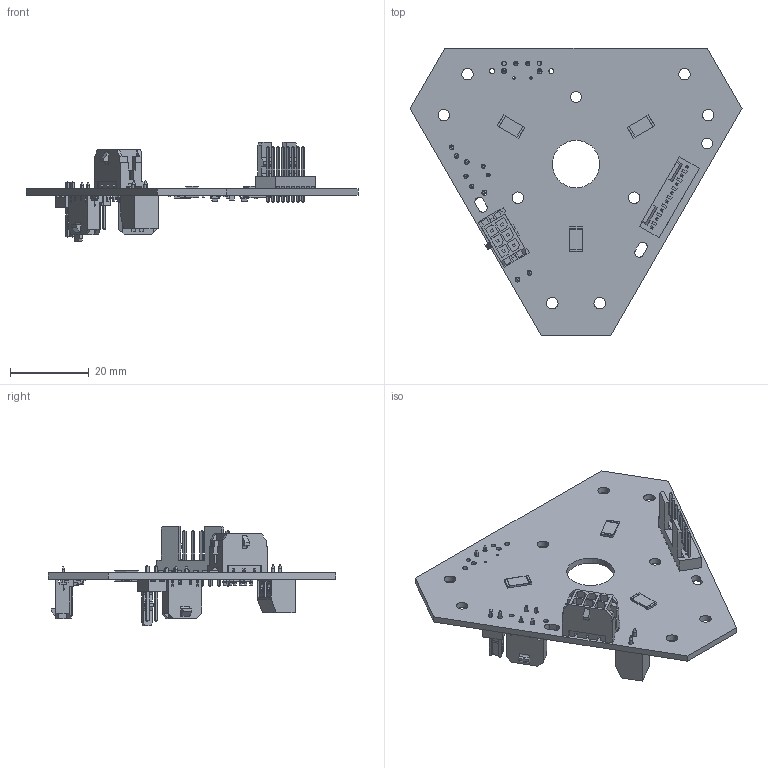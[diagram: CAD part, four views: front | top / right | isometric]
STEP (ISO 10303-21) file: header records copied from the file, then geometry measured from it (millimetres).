
FILE_DESCRIPTION(('KiCad electronic assembly'),'2;1');
FILE_NAME('SmartEffector_v3.0.step','2021-08-02T09:46:57',('An Author'), ('A Company'),'Open CASCADE STEP processor 6.9', 'KiCad to STEP converter','Unknown');
FILE_SCHEMA(('AUTOMOTIVE_DESIGN { 1 0 10303 214 1 1 1 1 }'));
Length unit declared in the file: millimetre
Products named in the file (36): Open CASCADE STEP translator 6.9 1; Molex_KK-254_AE-6410-08A_1x08_P2.54mm_Vertical; SOLID; Molex_Micro-Fit_3.0_02x03_P3.00_Vertical_430450612; COMPOUND; SCREWTERMINAL-3_5MM-2; Molex_Micro-Fit_3.0_01x02_P3.00_vertical_black; PinHeader_1x02_P2.54mm_Vertical; Molex_KK-254_AE-6410-02A_1x02_P2.54mm_Vertical; R_0402_1005Metric; R_0603_1608Metric; L_0805_2012Metric; C_0402_1005Metric; C_0805_2012Metric; C_0603_1608Metric; R_2512_6332Metric; SOT-23-5; QFN-20-1EP_4x4mm_P0.5mm_EP2.5x2.5mm; R_1206_3216Metric; R_0805_2012Metric
Assembly tree (56 placements, depth 3):
  Open CASCADE STEP translator 6.9 1
    Molex_KK-254_AE-6410-08A_1x08_P2.54mm_Vertical
      SOLID
    Molex_Micro-Fit_3.0_02x03_P3.00_Vertical_430450612
      COMPOUND
    SCREWTERMINAL-3_5MM-2
      SOLID
    Molex_Micro-Fit_3.0_01x02_P3.00_vertical_black  x2
      COMPOUND
    PinHeader_1x02_P2.54mm_Vertical
      SOLID
    Molex_KK-254_AE-6410-02A_1x02_P2.54mm_Vertical
      SOLID
    R_0402_1005Metric  x9
      SOLID
    R_0603_1608Metric
      SOLID
    L_0805_2012Metric
      SOLID
    C_0402_1005Metric  x4
      SOLID
    C_0805_2012Metric
      SOLID
    C_0603_1608Metric  x3
      SOLID
    R_2512_6332Metric  x6
      SOLID
    SOT-23-5  x2
      SOLID
    QFN-20-1EP_4x4mm_P0.5mm_EP2.5x2.5mm
      SOLID
    R_1206_3216Metric  x2
      SOLID
    R_0805_2012Metric
      SOLID
    COMPOUND
Bounding box: 84.09 x 72.82 x 25.1 mm (x, y, z)
Volume: 8276.7 mm3; surface area: 13214.7 mm2
Topology: 41 solids, 41 shells, 2264 faces, 7807 edges, 7610 vertices
Faces by surface type: plane 1792, cylinder 406, bspline 58, cone 8
Full cylindrical faces by diameter (mm): 0.5 x1, 0.6 x2, 1 x2, 1.1 x14, 1.199 x2, 1.2 x10, 1.27 x6, 2.7 x1, 2.9 x9, 12 x1
Entity records: 111296 total; most frequent: CARTESIAN_POINT 19889, DIRECTION 15664, LINE 11500, VECTOR 11500, ORIENTED_EDGE 7686, PCURVE 7686, DEFINITIONAL_REPRESENTATION 7686, EDGE_CURVE 3843
